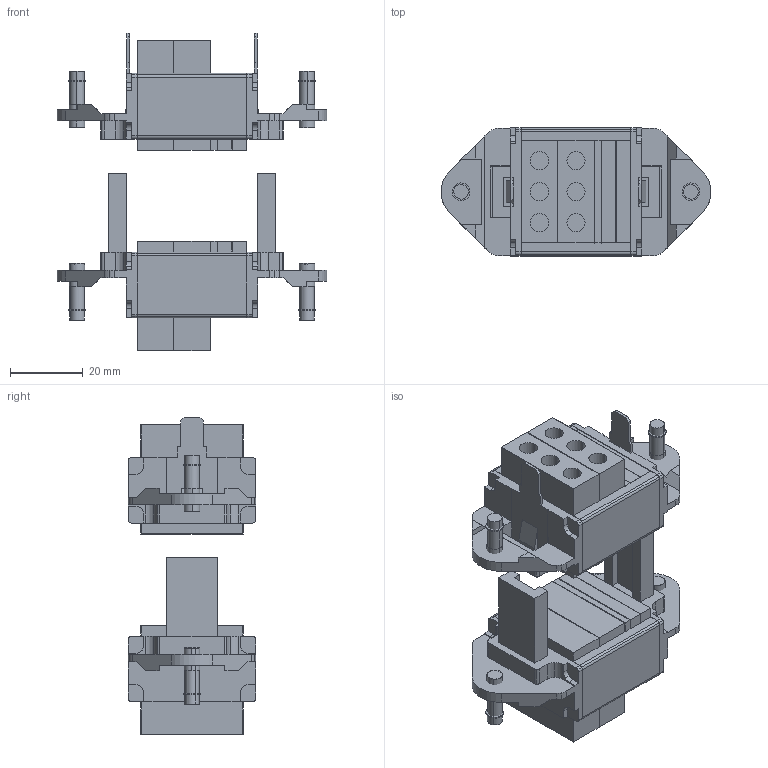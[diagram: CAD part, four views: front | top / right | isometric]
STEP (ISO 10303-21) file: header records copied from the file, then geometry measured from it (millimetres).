
FILE_DESCRIPTION(('CAx-IF Rec.Pracs.---Model Styling and Organization---1.2---2011-12-15','CAx-IF Rec.Pracs.---Geometric and Assembly Validation Properties---4.1---2014-06-16','CAx-IF Rec.Pracs.---PMI Polyline Presentation---2.0---2013-05-24'),'2;1');
FILE_NAME('R5M2WPC16.stp','2021-05-05T11:54:34+03:00',(''),(''),'STEP Interface 4.4 by CT CoreTechnologie','3D_Evolution4.4 by CT CoreTechnologie','');
FILE_SCHEMA(('AUTOMOTIVE_DESIGN { 1 0 10303 214 1 1 1 1 }'));
Length unit declared in the file: millimetre
Products named in the file (5): R5M2WPC16; Combitac 40A+12 Male; M4x16 DIN 7985 PH cl4,8 Zinc_stright; M4 DIN 985 cl.5,0 Zinc_straight; Combitac 40A+12 FeMale
Assembly tree (10 placements, depth 2):
  R5M2WPC16
    Combitac 40A+12 Male
    M4x16 DIN 7985 PH cl4,8 Zinc_stright  x4
    M4 DIN 985 cl.5,0 Zinc_straight  x4
    Combitac 40A+12 FeMale
Bounding box: 73.94 x 35 x 87 mm (x, y, z)
Surface area: 28259.9 mm2 (no closed solid volume)
Topology: 0 solids, 18 shells, 586 faces, 1534 edges, 996 vertices
Faces by surface type: plane 406, cylinder 180
Entity records: 17658 total; most frequent: CARTESIAN_POINT 3043, ORIENTED_EDGE 2996, DIRECTION 2980, EDGE_CURVE 1498, VECTOR 1162, LINE 1162, VERTEX_POINT 972, AXIS2_PLACEMENT_3D 909
